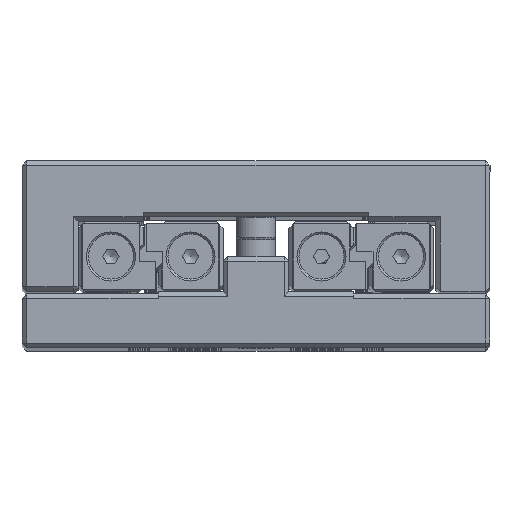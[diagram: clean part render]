
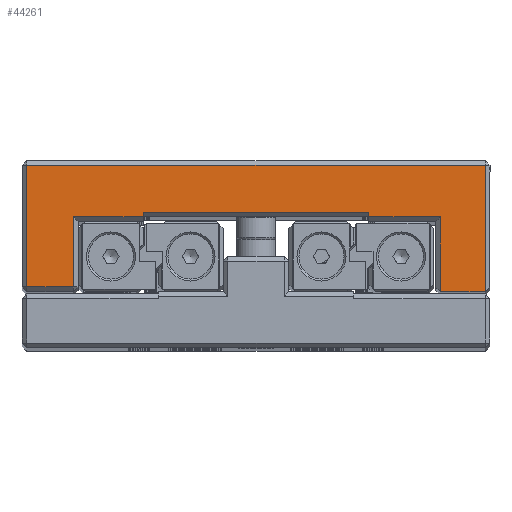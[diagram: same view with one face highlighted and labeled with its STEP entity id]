
A CAD part, top view. The second image highlights one B-rep face of the part: STEP entity #44261.
In plain terms, the highlighted planar face has unit normal (0, 0, 1).
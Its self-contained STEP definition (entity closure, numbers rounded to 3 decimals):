
#2536=PLANE('',#47927);
#4940=FACE_OUTER_BOUND('',#7581,.T.);
#7581=EDGE_LOOP('',(#36058,#36059,#36060,#36061,#36062,#36063,#36064,#36065,
#36066,#36067,#36068,#36069));
#10683=LINE('',#68877,#14501);
#10931=LINE('',#70374,#14749);
#10935=LINE('',#70382,#14753);
#10944=LINE('',#70397,#14762);
#10948=LINE('',#70405,#14766);
#10963=LINE('',#70431,#14781);
#10966=LINE('',#70435,#14784);
#10987=LINE('',#70480,#14805);
#10993=LINE('',#70494,#14811);
#10997=LINE('',#70499,#14815);
#11001=LINE('',#70506,#14819);
#11002=LINE('',#70508,#14820);
#14501=VECTOR('',#55442,10.);
#14749=VECTOR('',#56764,10.);
#14753=VECTOR('',#56772,10.);
#14762=VECTOR('',#56787,10.);
#14766=VECTOR('',#56793,10.);
#14781=VECTOR('',#56818,10.);
#14784=VECTOR('',#56823,10.);
#14805=VECTOR('',#56878,10.);
#14811=VECTOR('',#56888,10.);
#14815=VECTOR('',#56894,10.);
#14819=VECTOR('',#56900,10.);
#14820=VECTOR('',#56903,10.);
#19867=VERTEX_POINT('',#68873);
#19869=VERTEX_POINT('',#68876);
#20341=VERTEX_POINT('',#70373);
#20342=VERTEX_POINT('',#70380);
#20343=VERTEX_POINT('',#70381);
#20346=VERTEX_POINT('',#70396);
#20349=VERTEX_POINT('',#70403);
#20355=VERTEX_POINT('',#70429);
#20359=VERTEX_POINT('',#70473);
#20362=VERTEX_POINT('',#70478);
#20367=VERTEX_POINT('',#70491);
#20370=VERTEX_POINT('',#70502);
#25173=EDGE_CURVE('',#19869,#19867,#10683,.T.);
#25831=EDGE_CURVE('',#19869,#20341,#10931,.T.);
#25835=EDGE_CURVE('',#20342,#20343,#10935,.T.);
#25844=EDGE_CURVE('',#20343,#20346,#10944,.T.);
#25848=EDGE_CURVE('',#20349,#19867,#10948,.T.);
#25863=EDGE_CURVE('',#20355,#20349,#10963,.T.);
#25866=EDGE_CURVE('',#20346,#20355,#10966,.T.);
#25887=EDGE_CURVE('',#20362,#20359,#10987,.T.);
#25893=EDGE_CURVE('',#20362,#20367,#10993,.T.);
#25897=EDGE_CURVE('',#20341,#20367,#10997,.T.);
#25901=EDGE_CURVE('',#20370,#20359,#11001,.T.);
#25902=EDGE_CURVE('',#20370,#20342,#11002,.T.);
#36058=ORIENTED_EDGE('',*,*,#25835,.F.);
#36059=ORIENTED_EDGE('',*,*,#25902,.F.);
#36060=ORIENTED_EDGE('',*,*,#25901,.T.);
#36061=ORIENTED_EDGE('',*,*,#25887,.F.);
#36062=ORIENTED_EDGE('',*,*,#25893,.T.);
#36063=ORIENTED_EDGE('',*,*,#25897,.F.);
#36064=ORIENTED_EDGE('',*,*,#25831,.F.);
#36065=ORIENTED_EDGE('',*,*,#25173,.T.);
#36066=ORIENTED_EDGE('',*,*,#25848,.F.);
#36067=ORIENTED_EDGE('',*,*,#25863,.F.);
#36068=ORIENTED_EDGE('',*,*,#25866,.F.);
#36069=ORIENTED_EDGE('',*,*,#25844,.F.);
#44261=ADVANCED_FACE('',(#4940),#2536,.T.);
#47927=AXIS2_PLACEMENT_3D('',#70507,#56901,#56902);
#55442=DIRECTION('',(1.,0.,0.));
#56764=DIRECTION('',(0.,1.,0.));
#56772=DIRECTION('',(0.,-1.,0.));
#56787=DIRECTION('',(-1.,0.,0.));
#56793=DIRECTION('',(0.,-1.,0.));
#56818=DIRECTION('',(1.,0.,0.));
#56823=DIRECTION('',(0.,1.,0.));
#56878=DIRECTION('',(-1.,0.,0.));
#56888=DIRECTION('',(0.,-1.,0.));
#56894=DIRECTION('',(-1.,0.,0.));
#56900=DIRECTION('',(0.,1.,0.));
#56901=DIRECTION('center_axis',(0.,0.,
1.));
#56902=DIRECTION('ref_axis',(1.,0.,0.));
#56903=DIRECTION('',(-1.,0.,0.));
#68873=CARTESIAN_POINT('',(19.869,67.583,264.133));
#68876=CARTESIAN_POINT('',(10.269,67.583,264.133));
#68877=CARTESIAN_POINT('',(9.269,67.583,264.133));
#70373=CARTESIAN_POINT('',(10.269,83.583,264.133));
#70374=CARTESIAN_POINT('',(10.269,82.083,264.133));
#70380=CARTESIAN_POINT('',(-68.131,83.583,264.133));
#70381=CARTESIAN_POINT('',(-68.131,68.583,264.133));
#70382=CARTESIAN_POINT('',(-68.131,74.583,264.133));
#70396=CARTESIAN_POINT('',(-78.131,68.583,264.133));
#70397=CARTESIAN_POINT('',(-54.131,68.583,264.133));
#70403=CARTESIAN_POINT('',(19.869,94.583,264.133));
#70405=CARTESIAN_POINT('',(19.869,74.583,264.133));
#70429=CARTESIAN_POINT('',(-78.131,94.583,264.133));
#70431=CARTESIAN_POINT('',(-4.131,94.583,264.133));
#70435=CARTESIAN_POINT('',(-78.131,88.583,264.133));
#70473=CARTESIAN_POINT('',(-53.231,84.583,264.133));
#70478=CARTESIAN_POINT('',(-5.031,84.583,264.133));
#70480=CARTESIAN_POINT('',(-41.181,84.583,264.133));
#70491=CARTESIAN_POINT('',(-5.031,83.583,264.133));
#70494=CARTESIAN_POINT('',(-5.031,83.583,264.133));
#70499=CARTESIAN_POINT('',(-17.081,83.583,264.133));
#70502=CARTESIAN_POINT('',(-53.231,83.583,264.133));
#70506=CARTESIAN_POINT('',(-53.231,82.583,264.133));
#70507=CARTESIAN_POINT('Origin',(-29.131,81.583,264.133));
#70508=CARTESIAN_POINT('',(-48.131,83.583,264.133));
